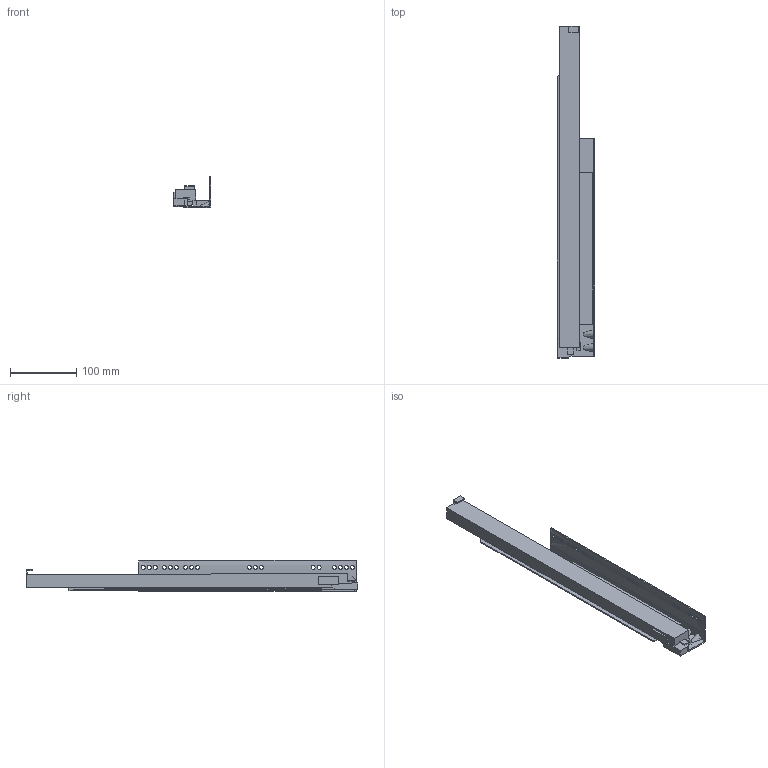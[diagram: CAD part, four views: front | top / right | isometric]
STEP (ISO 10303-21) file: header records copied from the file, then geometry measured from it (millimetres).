
FILE_DESCRIPTION (( 'STEP AP214' ), '1' );
FILE_NAME ('_IMOS_Dynapro_Softclose_D514_NL_500_RE.step', '2010-07-16T06:03:39', ( 'grass' ), ( '' ), 'SwSTEP 2.0', 'SolidWorks 2009', '' );
FILE_SCHEMA (( 'AUTOMOTIVE_DESIGN' ));
Length unit declared in the file: millimetre
Products named in the file (1): _IMOS_Dynapro_Softclose_D514_NL_500_RE
Bounding box: 57.08 x 500.07 x 47.86 mm (x, y, z)
Volume: 426428.3 mm3; surface area: 135361.7 mm2
Topology: 1 solids, 1 shells, 120 faces, 409 edges, 287 vertices
Faces by surface type: plane 77, cylinder 36, bspline 7
Entity records: 5269 total; most frequent: CARTESIAN_POINT 1531, ORIENTED_EDGE 810, DIRECTION 723, EDGE_CURVE 405, LINE 309, VECTOR 309, VERTEX_POINT 287, AXIS2_PLACEMENT_3D 207
